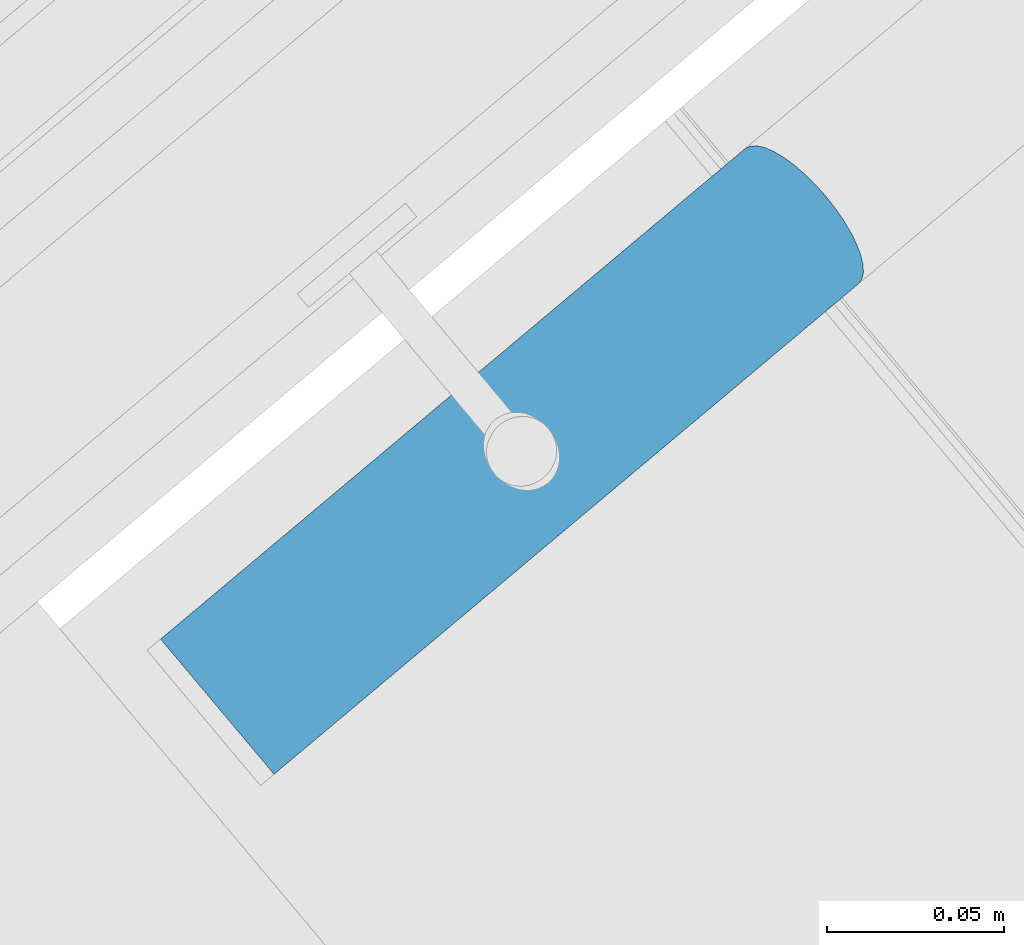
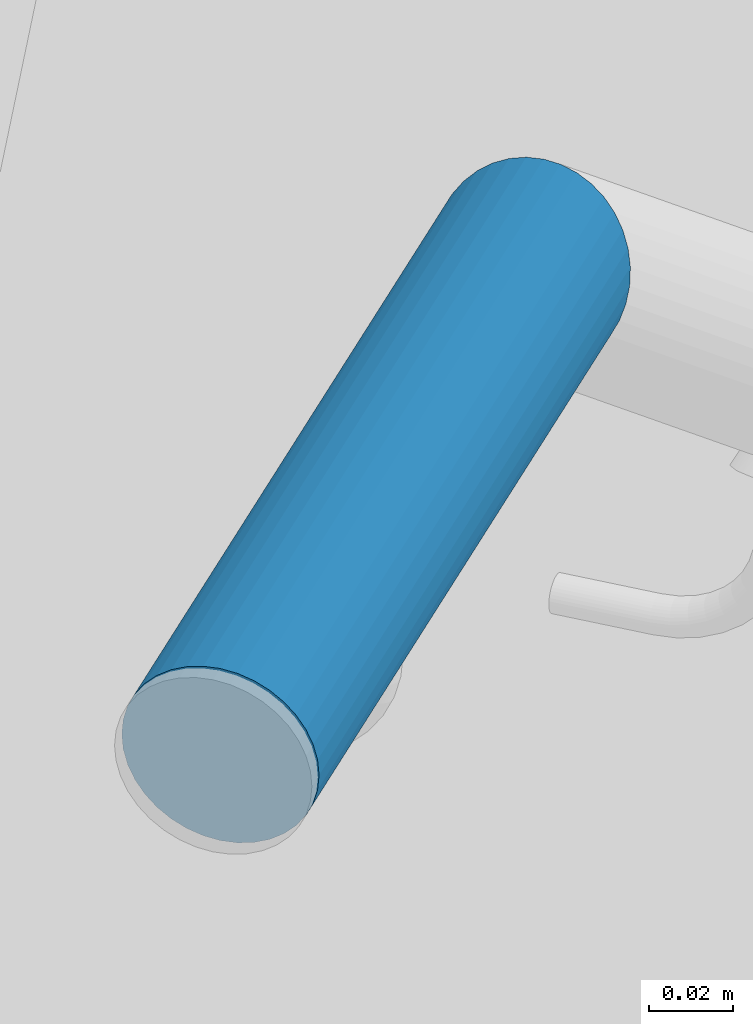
# One storey, part 18 of 338: 1 building element part, 2 elements without a shape of their own.
"""IFC2X3 building model written with IfcOpenShell, lengths in millimetres."""

import ifcopenshell
import ifcopenshell.guid

model = None  # the IFC model being written
_history = None  # IfcOwnerHistory: only IFC2X3 demands one
_inside = {}  # id of a spatial element -> (the spatial element, [elements in it])
_under = {}  # id of a project, library or spatial element -> (it, [spatial elements below it])
_declared = {}  # id of a project -> (the project, [libraries it declares])
_typed = {}  # id of a type object -> (the type object, [elements of that type])
_made_of = {}  # id of a material, layer set ... -> (it, [elements and type objects made of it])


def new_model(schema):
    """Start an empty IFC model of exactly this schema.

    Asked for "IFC4X3", IfcOpenShell would pick the latest addendum, in which some entities
    have other attributes; the version numbers below select the first issue.
    IFC2X3 requires an IfcOwnerHistory on every rooted entity: one is made here for all.
    """
    global model, _history
    if schema == "IFC4X3":
        model = ifcopenshell.file(schema_version=(4, 3, 0, 0))
    else:
        model = ifcopenshell.file(schema=schema)
    _inside.clear()
    _under.clear()
    _declared.clear()
    _typed.clear()
    _made_of.clear()
    _history = None
    if model.schema == "IFC2X3":
        org = make("IfcOrganization", Name="unknown")
        user = make(
            "IfcPersonAndOrganization",
            ThePerson=make("IfcPerson", FamilyName="unknown"),
            TheOrganization=org,
        )
        app = make(
            "IfcApplication",
            ApplicationDeveloper=org,
            Version="unknown",
            ApplicationFullName="unknown",
            ApplicationIdentifier="unknown",
        )
        _history = make(
            "IfcOwnerHistory",
            OwningUser=user,
            OwningApplication=app,
            ChangeAction="ADDED",
            CreationDate=0,
        )
    return model


def make(cls, **values):
    """One entity of the class cls with the attributes given. An attribute that is None is left unset."""
    return model.create_entity(
        cls, **{name: value for name, value in values.items() if value is not None}
    )


def entity(cls, *values):
    """Any entity or typed value of the class cls, its attributes in the order of the schema. None: left unset."""
    e = model.create_entity(cls)
    for i, value in enumerate(values):
        if value is not None:
            e[i] = value
    return e


def rooted(cls, **values):
    """An entity with a GlobalId (a new one), such as an element, a storey or a relation."""
    return make(cls, GlobalId=ifcopenshell.guid.new(), OwnerHistory=_history, **values)


def si_unit(unit_type, name, prefix=None):
    """IfcSIUnit, for example si_unit("LENGTHUNIT", "METRE", prefix="MILLI")."""
    return make("IfcSIUnit", UnitType=unit_type, Prefix=prefix, Name=name)


def converted_unit(unit_type, name, factor, base, dimensions=None, offset=None):
    """IfcConversionBasedUnit, such as the inch: factor (a typed value) times the base unit."""
    return make(
        "IfcConversionBasedUnit"
        if offset is None
        else "IfcConversionBasedUnitWithOffset",
        ConversionOffset=offset,
        Dimensions=None
        if dimensions is None
        else entity("IfcDimensionalExponents", *dimensions),
        UnitType=unit_type,
        Name=name,
        ConversionFactor=make(
            "IfcMeasureWithUnit", ValueComponent=factor, UnitComponent=base
        ),
    )


def derived_unit(unit_type, elements):
    """IfcDerivedUnit: a product of units, each with its exponent."""
    return make(
        "IfcDerivedUnit",
        Elements=[
            make("IfcDerivedUnitElement", Unit=unit, Exponent=power)
            for unit, power in elements
        ],
        UnitType=unit_type,
    )


def money_unit(currency):
    """IfcMonetaryUnit."""
    return make("IfcMonetaryUnit", Currency=currency)


def assignment(units):
    """IfcUnitAssignment: the units of a project."""
    return None if units is None else make("IfcUnitAssignment", Units=units)


def point(xyz):
    """IfcCartesianPoint."""
    return None if xyz is None else make("IfcCartesianPoint", Coordinates=xyz)


def direction(xyz):
    """IfcDirection."""
    return None if xyz is None else make("IfcDirection", DirectionRatios=xyz)


def frame(location, z_axis=None, x_axis=None):
    """IfcAxis2Placement3D, a coordinate frame: its origin and axes. An axis left out is left unset."""
    return make(
        "IfcAxis2Placement3D",
        Location=point(location),
        Axis=direction(z_axis),
        RefDirection=direction(x_axis),
    )


def origin_with_axes():
    """The frame at (0, 0, 0) with the z axis (0, 0, 1) and the x axis (1, 0, 0) written out."""
    return frame((0.0, 0.0, 0.0), z_axis=(0.0, 0.0, 1.0), x_axis=(1.0, 0.0, 0.0))


def place(relative_to, where):
    """IfcLocalPlacement: puts the frame where relative to a parent placement (None: the world)."""
    return make(
        "IfcLocalPlacement", PlacementRelTo=relative_to, RelativePlacement=where
    )


def context(
    kind, dimensions, precision=None, world=None, true_north=None, identifier=None
):
    """IfcGeometricRepresentationContext, for example the 3D "Model" context."""
    return make(
        "IfcGeometricRepresentationContext",
        ContextIdentifier=identifier,
        ContextType=kind,
        CoordinateSpaceDimension=dimensions,
        Precision=precision,
        WorldCoordinateSystem=world,
        TrueNorth=true_north,
    )


def subcontext(parent, identifier, kind, view, scale=None):
    """IfcGeometricRepresentationSubContext, for example "Body" below "Model"."""
    return make(
        "IfcGeometricRepresentationSubContext",
        ContextIdentifier=identifier,
        ContextType=kind,
        ParentContext=parent,
        TargetScale=scale,
        TargetView=view,
    )


def project(units=None, contexts=None):
    """IfcProject with its units and contexts."""
    return rooted(
        "IfcProject",
        Name="project",
        RepresentationContexts=contexts,
        UnitsInContext=assignment(units),
    )


def spatial(cls, under=None, at=None, **own):
    """A site, building, storey or space (cls), placed at a placement, below another one or the project."""
    s = rooted(cls, ObjectPlacement=at, **own)
    if under is not None:
        _under.setdefault(under.id(), (under, []))[1].append(s)
    return s


def faces_of(points, faces, orient=None, outer=None):
    """IfcFace entities. A face is a list of loops; a loop is a list of indices into points, from 0.

    orient and outer hold one flag for each loop. By default every Orientation is true, the
    first loop of a face is its IfcFaceOuterBound and the others are IfcFaceBound.
    """
    made = []
    for i, loops in enumerate(faces):
        bounds = []
        for j, loop in enumerate(loops):
            is_outer = j == 0 if outer is None else outer[i][j]
            bounds.append(
                make(
                    "IfcFaceOuterBound" if is_outer else "IfcFaceBound",
                    Bound=make("IfcPolyLoop", Polygon=[points[k] for k in loop]),
                    Orientation=True if orient is None else orient[i][j],
                )
            )
        made.append(make("IfcFace", Bounds=bounds))
    return made


def faceted_brep(points, faces, orient=None, outer=None, voids=None):
    """IfcFacetedBrep: a solid bounded by flat faces; with voids (closed shells), ...WithVoids."""
    shared = [point(p) for p in points]
    hull = make("IfcClosedShell", CfsFaces=faces_of(shared, faces, orient, outer))
    if voids is None:
        return make("IfcFacetedBrep", Outer=hull)
    return make(
        "IfcFacetedBrepWithVoids",
        Outer=hull,
        Voids=[
            make(cls, CfsFaces=faces_of(shared, fs, o, b)) for cls, fs, o, b in voids
        ],
    )


def shape(context_of_items, identifier, shape_type, items):
    """IfcShapeRepresentation: the items that make up one representation, for example the "Body"."""
    return make(
        "IfcShapeRepresentation",
        ContextOfItems=context_of_items,
        RepresentationIdentifier=identifier,
        RepresentationType=shape_type,
        Items=items,
    )


def source(mapping_origin, context_of_items, identifier, shape_type, items):
    """IfcRepresentationMap: a shape defined once, which mapped items show again and again."""
    return make(
        "IfcRepresentationMap",
        MappingOrigin=mapping_origin,
        MappedRepresentation=shape(context_of_items, identifier, shape_type, items),
    )


def transform(
    local_origin,
    x_axis=None,
    y_axis=None,
    z_axis=None,
    scale=None,
    scale2=None,
    scale3=None,
    uniform=True,
):
    """IfcCartesianTransformationOperator3D, or its non-uniform kind. x_axis, y_axis, z_axis: its Axis1, 2, 3."""
    if uniform:
        return make(
            "IfcCartesianTransformationOperator3D",
            Axis1=direction(x_axis),
            Axis2=direction(y_axis),
            LocalOrigin=point(local_origin),
            Scale=scale,
            Axis3=direction(z_axis),
        )
    return make(
        "IfcCartesianTransformationOperator3DnonUniform",
        Axis1=direction(x_axis),
        Axis2=direction(y_axis),
        LocalOrigin=point(local_origin),
        Scale=scale,
        Axis3=direction(z_axis),
        Scale2=scale2,
        Scale3=scale3,
    )


def mapped(mapping_source, mapping_target):
    """IfcMappedItem: shows the shape of a source again, moved by a transform."""
    return make(
        "IfcMappedItem", MappingSource=mapping_source, MappingTarget=mapping_target
    )


def material(Name=None, Category=None):
    """IfcMaterial."""
    return make("IfcMaterial", Name=Name, Category=Category)


def made_of(thing, what):
    """Note that an element or type object is made of a material, layer set ...; save() writes the relation."""
    if what is not None:
        _made_of.setdefault(what.id(), (what, []))[1].append(thing)
    return thing


def type_object(cls, material=None, **own):
    """A type object (cls), such as IfcWallType, which elements share."""
    return made_of(rooted(cls, **own), material)


def element(
    cls,
    number,
    at=None,
    inside=None,
    cuts=None,
    type_object=None,
    material=None,
    context=None,
    identifier="Body",
    shape_type=None,
    held_by="IfcProductDefinitionShape",
    body=None,
    shapes=None,
    **own,
):
    """One element of the class cls, such as IfcWall. Its Tag is "e" and its number.

    at: its placement. inside: the storey or other place that contains it. cuts: it is an
    opening in that element (IfcRelVoidsElement). A single representation is given by context,
    identifier, shape_type and body (its items); several are given by shapes. held_by: the class
    of the entity that holds the representations. save() writes the other relations.
    """
    e = rooted(cls, Tag="e%d" % number, ObjectPlacement=at, **own)
    if body is not None:
        shapes = [shape(context, identifier, shape_type, body)]
    if shapes is not None:
        e.Representation = make(held_by, Representations=shapes)
    if inside is not None:
        _inside.setdefault(inside.id(), (inside, []))[1].append(e)
    if cuts is not None:
        rooted(
            "IfcRelVoidsElement", RelatingBuildingElement=cuts, RelatedOpeningElement=e
        )
    if type_object is not None:
        _typed.setdefault(type_object.id(), (type_object, []))[1].append(e)
    return made_of(e, material)


def aggregate(whole, parts):
    """IfcRelAggregates: a whole, such as a stair, and the parts it consists of."""
    return rooted("IfcRelAggregates", RelatingObject=whole, RelatedObjects=parts)


def save(model, path):
    """Write the relations noted so far, then the file.

    IfcRelAggregates (storeys below a building ...), IfcRelContainedInSpatialStructure (elements
    in a storey), IfcRelDefinesByType, IfcRelAssociatesMaterial and IfcRelDeclares: one each for
    every whole, place, type object, material and project.
    """
    for whole, parts in _under.values():
        aggregate(whole, parts)
    for where, things in _inside.values():
        rooted(
            "IfcRelContainedInSpatialStructure",
            RelatedElements=things,
            RelatingStructure=where,
        )
    for kind, things in _typed.values():
        rooted("IfcRelDefinesByType", RelatedObjects=things, RelatingType=kind)
    for what, things in _made_of.values():
        rooted("IfcRelAssociatesMaterial", RelatedObjects=things, RelatingMaterial=what)
    for by, libraries in _declared.values():
        rooted("IfcRelDeclares", RelatingContext=by, RelatedDefinitions=libraries)
    model.write(path)


model = new_model("IFC2X3")

# Units and contexts
model_context = context("Model", 3, precision=0.01, world=origin_with_axes(), true_north=direction((0.0, 1.0)))
plan_context = context("Plan", 3, precision=0.01, world=origin_with_axes(), true_north=direction((0.0, 1.0)))
body_context = subcontext(model_context, "Body", "Model", "MODEL_VIEW")
ifc_project = project(units=[si_unit("LENGTHUNIT", "METRE", prefix="MILLI"), si_unit("AREAUNIT", "SQUARE_METRE"), si_unit("VOLUMEUNIT", "CUBIC_METRE"), converted_unit("PLANEANGLEUNIT", "DEGREE", entity("IfcPlaneAngleMeasure", 0.0174532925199), si_unit("PLANEANGLEUNIT", "RADIAN"), dimensions=[0, 0, 0, 0, 0, 0, 0]), money_unit("EUR"), converted_unit("TIMEUNIT", "Year", entity("IfcTimeMeasure", 31556926.0), si_unit("TIMEUNIT", "SECOND"), dimensions=[0, 0, 1, 0, 0, 0, 0]), si_unit("MASSUNIT", "GRAM", prefix="KILO"), si_unit("THERMODYNAMICTEMPERATUREUNIT", "DEGREE_CELSIUS"), si_unit("LUMINOUSINTENSITYUNIT", "LUMEN"), si_unit("ENERGYUNIT", "JOULE", prefix="MEGA"), derived_unit("THERMALCONDUCTANCEUNIT", [(si_unit("POWERUNIT", "WATT"), 1), (si_unit("LENGTHUNIT", "METRE"), -1), (si_unit("THERMODYNAMICTEMPERATUREUNIT", "KELVIN"), -1)]), derived_unit("SPECIFICHEATCAPACITYUNIT", [(si_unit("ENERGYUNIT", "JOULE"), 1), (si_unit("MASSUNIT", "GRAM", prefix="KILO"), -1), (si_unit("THERMODYNAMICTEMPERATUREUNIT", "KELVIN"), -1)]), derived_unit("MASSDENSITYUNIT", [(si_unit("MASSUNIT", "GRAM", prefix="KILO"), 1), (si_unit("VOLUMEUNIT", "CUBIC_METRE"), -1)])], contexts=[model_context, plan_context])

# Site, building, storey
site_placement = place(None, origin_with_axes())
site = spatial("IfcSite", under=ifc_project, at=site_placement, Name="Fortuinstraat Woensdrecht", CompositionType="ELEMENT")
building_placement = place(site_placement, origin_with_axes())
building = spatial("IfcBuilding", under=site, at=building_placement, Name="IKC Fortuna", CompositionType="ELEMENT")
storey_placement = place(building_placement, origin_with_axes())
storey = spatial("IfcBuildingStorey", under=building, at=storey_placement, Name="00 begane grond", CompositionType="ELEMENT", Elevation=0.0)

# Railing, member, building element part
railing_type = type_object("IfcRailingType", Name="Railing Type", PredefinedType="NOTDEFINED")
railing_placement = place(storey_placement, frame((18628.4030383, 5997.03974934, 25.0), z_axis=(0.0, 0.0, 1.0), x_axis=(0.173648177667, 0.984807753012, 0.0)))
railing = element("IfcRailing", 1, at=railing_placement, inside=storey, type_object=railing_type, Name="_Reling_Reling-x", PredefinedType="NOTDEFINED")
member_type = type_object("IfcMemberType", Name="IfcMember", PredefinedType="USERDEFINED")
member_placement = place(railing_placement, frame((-1454.87202508, 1015.90392235, 2294.09830056), z_axis=(0.0, 0.0, 1.0), x_axis=(0.173648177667, -0.984807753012, 0.0)))
member = element("IfcMember", 2, at=member_placement, type_object=member_type, Name="_Reling - regel_Handregel-x")
aggregate(railing, [member])
ifc_material = material(Name="Hout AFW")
shared_shape = source(origin_with_axes(), body_context, "Body", "Brep", [
    faceted_brep([(73.5942523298, -101.42300118, 875.0), (74.5229719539, -100.147911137, 879.341204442), (-92.2556831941, -240.09181916, 879.341204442), (-92.0115484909, -240.382767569, 875.0), (72.1772632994, -102.116194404, 870.658795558), (70.3150593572, -102.206428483, 866.449496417), (68.0642226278, -101.690961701, 862.5), (65.4931436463, -100.585456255, 858.930309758), (62.6799433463, -98.9235023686, 855.848888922), (59.7100993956, -96.7555976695, 853.349364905), (56.6738489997, -94.1476128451, 851.50768448), (53.6634470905, -91.1787901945, 850.379806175), (50.7703632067, -87.9393358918, 850.0), (48.082502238, -84.5276791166, 850.379806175), (45.68153348, -81.0474813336, 851.50768448), (43.6404091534, -77.6044865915, 853.349364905), (42.021147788, -74.3033085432, 855.848888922), (40.8729498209, -71.2442518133, 858.930309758), (40.2307026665, -68.5202642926, 862.5), (40.1139206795, -66.2141129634, 866.449496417), (40.5261522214, -64.3958690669, 870.658795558), (41.4548718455, -63.1207790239, 875.0), (42.871860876, -62.4275858, 879.341204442), (44.7340648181, -62.3373517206, 883.550503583), (46.9849015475, -62.8528185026, 887.5), (49.5559805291, -63.9583239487, 891.069690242), (52.369180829, -65.6202778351, 894.151111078), (55.3390247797, -67.7881825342, 896.650635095), (58.3752751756, -70.3961673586, 898.49231552), (61.3856770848, -73.3649900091, 899.620193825), (64.2787609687, -76.6044443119, 900.0), (66.9666219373, -80.0161010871, 899.620193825), (69.3675906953, -83.4962988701, 898.49231552), (71.4087150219, -86.9392936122, 896.650635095), (73.0279763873, -90.2404716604, 894.151111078), (74.1761743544, -93.2995283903, 891.069690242), (74.8184215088, -96.0235159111, 887.5), (74.9352034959, -98.3296672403, 883.550503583), (-92.9806693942, -239.227814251, 883.550503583), (-94.1644787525, -237.817005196, 887.5), (-95.7711418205, -235.902258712, 891.069690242), (-97.7518409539, -233.541753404, 894.151111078), (-100.046393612, -230.80721203, 896.650635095), (-102.585080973, -227.781722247, 898.49231552), (-105.290766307, -224.55721203, 899.620193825), (-108.081238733, -221.231656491, 900.0), (-110.871711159, -217.906100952, 899.620193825), (-113.577396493, -214.681590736, 898.49231552), (-116.116083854, -211.656100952, 896.650635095), (-118.410636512, -208.921559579, 894.151111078), (-120.391335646, -206.561054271, 891.069690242), (-121.997998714, -204.646307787, 887.5), (-123.181808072, -203.235498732, 883.550503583), (-123.906794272, -202.371493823, 879.341204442), (-124.150928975, -202.080545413, 875.0), (-123.906794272, -202.371493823, 870.658795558), (-123.181808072, -203.235498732, 866.449496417), (-121.997998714, -204.646307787, 862.5), (-120.391335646, -206.561054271, 858.930309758), (-118.410636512, -208.921559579, 855.848888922), (-116.116083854, -211.656100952, 853.349364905), (-113.577396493, -214.681590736, 851.50768448), (-110.871711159, -217.906100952, 850.379806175), (-108.081238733, -221.231656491, 850.0), (-105.290766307, -224.55721203, 850.379806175), (-102.585080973, -227.781722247, 851.50768448), (-100.046393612, -230.80721203, 853.349364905), (-97.7518409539, -233.541753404, 855.848888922), (-95.7711418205, -235.902258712, 858.930309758), (-94.1644787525, -237.817005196, 862.5), (-92.9806693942, -239.227814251, 866.449496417), (-92.2556831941, -240.09181916, 870.658795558)], [[[0, 1, 2, 3]], [[0, 4, 5, 6, 7, 8, 9, 10, 11, 12, 13, 14, 15, 16, 17, 18, 19, 20, 21, 22, 23, 24, 25, 26, 27, 28, 29, 30, 31, 32, 33, 34, 35, 36, 37, 1]], [[1, 37, 38, 2]], [[3, 2, 38, 39, 40, 41, 42, 43, 44, 45, 46, 47, 48, 49, 50, 51, 52, 53, 54, 55, 56, 57, 58, 59, 60, 61, 62, 63, 64, 65, 66, 67, 68, 69, 70, 71]], [[4, 0, 3, 71]], [[5, 4, 71, 70]], [[6, 5, 70, 69]], [[7, 6, 69, 68]], [[8, 7, 68, 67]], [[9, 8, 67, 66]], [[10, 9, 66, 65]], [[11, 10, 65, 64]], [[12, 11, 64, 63]], [[13, 12, 63, 62]], [[14, 13, 62, 61]], [[15, 14, 61, 60]], [[16, 15, 60, 59]], [[17, 16, 59, 58]], [[18, 17, 58, 57]], [[19, 18, 57, 56]], [[20, 19, 56, 55]], [[21, 20, 55, 54]], [[22, 21, 54, 53]], [[23, 22, 53, 52]], [[24, 23, 52, 51]], [[25, 24, 51, 50]], [[26, 25, 50, 49]], [[27, 26, 49, 48]], [[28, 27, 48, 47]], [[29, 28, 47, 46]], [[30, 29, 46, 45]], [[31, 30, 45, 44]], [[32, 31, 44, 43]], [[33, 32, 43, 42]], [[34, 33, 42, 41]], [[35, 34, 41, 40]], [[36, 35, 40, 39]], [[37, 36, 39, 38]]]),
])
building_element_part_placement = place(member_placement, origin_with_axes())
building_element_part = element("IfcBuildingElementPart", 3, at=building_element_part_placement, material=ifc_material, Name="Hout AFW", context=body_context, shape_type="MappedRepresentation", body=[
    mapped(shared_shape, transform((21.9012388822, 148.918050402, -844.098300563))),
])
aggregate(member, [building_element_part])

save(model, "model.ifc")
